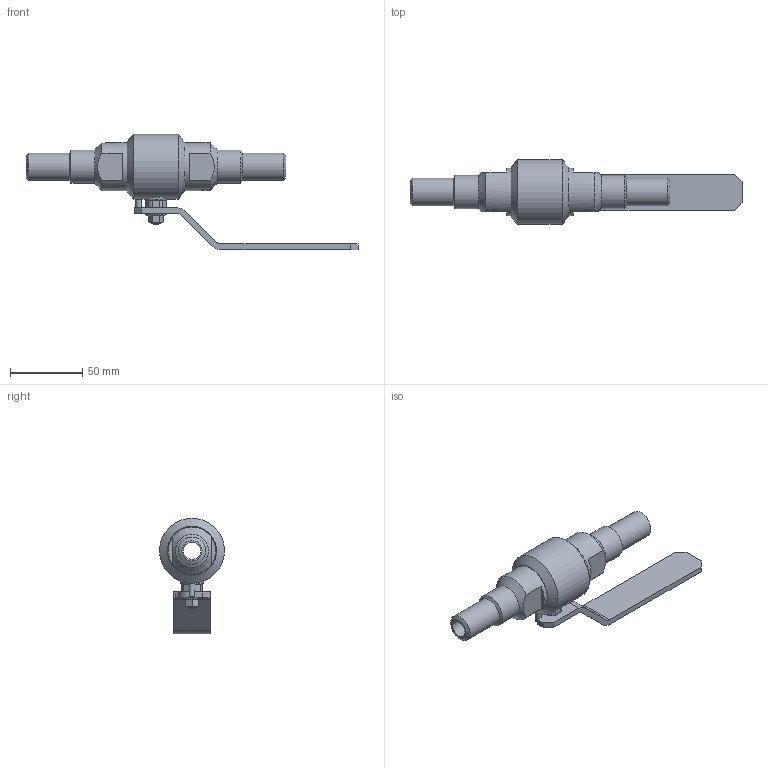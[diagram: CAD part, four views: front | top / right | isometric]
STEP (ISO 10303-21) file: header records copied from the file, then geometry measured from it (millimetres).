
FILE_DESCRIPTION(('STEP AP203'), '1');
FILE_NAME('ZARD 015.160.40.P.stp', '2013-12-05T09:23:21', ('Øèøêî'), ('Ýíåðïðåä ßðäîñ'), 'ASCON STEP Converter 1.3', 'Kompas 3D', '');
FILE_SCHEMA(('CONFIG_CONTROL_DESIGN','SUPPORT_RESOURCE_SCHEMA'));
Length unit declared in the file: millimetre
Products named in the file (1): 103
Bounding box: 230 x 45 x 80 mm (x, y, z)
Volume: 115576.8 mm3; surface area: 36973.9 mm2
Topology: 1 solids, 3 shells, 151 faces, 360 edges, 220 vertices
Faces by surface type: plane 88, cylinder 36, cone 26, bspline 1
Full cylindrical faces by diameter (mm): 4 x2, 6 x2, 8.673 x1, 9 x1, 10 x1, 10.1 x1, 12 x2, 14.2 x1, 15.8 x1, 16 x3, 19 x2, 23 x2, 25.4 x1, 33 x2, 45 x1
Entity records: 5700 total; most frequent: CARTESIAN_POINT 2062, DIRECTION 767, ORIENTED_EDGE 718, EDGE_CURVE 359, AXIS2_PLACEMENT_3D 286, VERTEX_POINT 220, LINE 195, VECTOR 195
